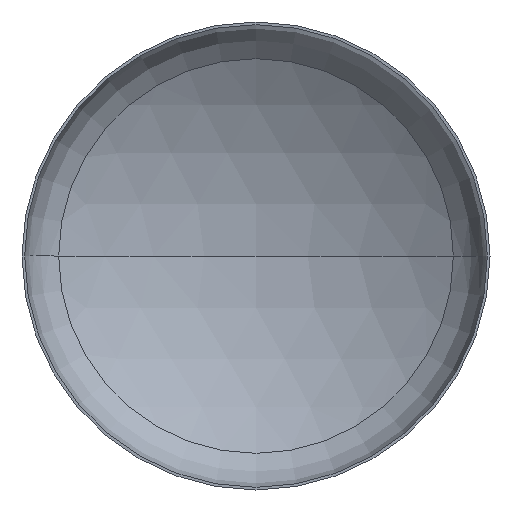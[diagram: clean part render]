
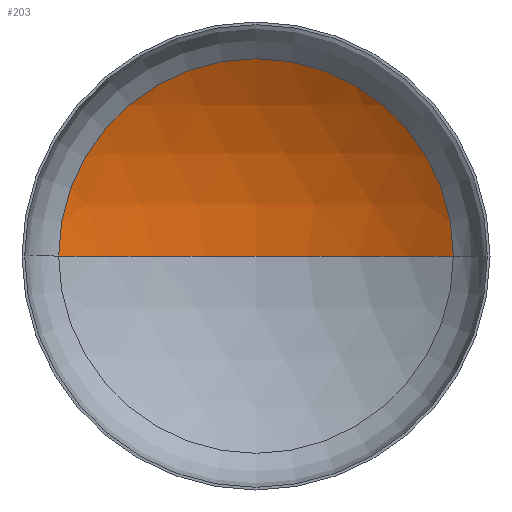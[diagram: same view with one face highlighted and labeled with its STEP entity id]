
A CAD part, front view. The second image highlights one B-rep face of the part: STEP entity #203.
In plain terms, the highlighted spherical face has radius 1120 mm.
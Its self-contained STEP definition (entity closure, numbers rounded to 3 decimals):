
#2 = AXIS2_PLACEMENT_3D ( 'NONE', #364, #218, #264 ) ;
#7 = DIRECTION ( 'NONE',  ( 0., 0., -1. ) ) ;
#9 = AXIS2_PLACEMENT_3D ( 'NONE', #127, #326, #205 ) ;
#14 = VERTEX_POINT ( 'NONE', #272 ) ;
#29 = AXIS2_PLACEMENT_3D ( 'NONE', #257, #7, #255 ) ;
#40 = CARTESIAN_POINT ( 'NONE',  ( 0., 375.912, 0. ) ) ;
#91 = CARTESIAN_POINT ( 'NONE',  ( -590.32, 207.711, 0. ) ) ;
#94 = ORIENTED_EDGE ( 'NONE', *, *, #375, .T. ) ;
#98 = CARTESIAN_POINT ( 'NONE',  ( 0., -744.088, 0. ) ) ;
#103 = SPHERICAL_SURFACE ( 'NONE', #29, 1120. ) ;
#121 = CIRCLE ( 'NONE', #222, 1120. ) ;
#127 = CARTESIAN_POINT ( 'NONE',  ( 0., 207.711, 0. ) ) ;
#161 = ORIENTED_EDGE ( 'NONE', *, *, #331, .T. ) ;
#181 = ORIENTED_EDGE ( 'NONE', *, *, #372, .F. ) ;
#190 = VERTEX_POINT ( 'NONE', #40 ) ;
#201 = VERTEX_POINT ( 'NONE', #91 ) ;
#203 = ADVANCED_FACE ( 'NONE', ( #388 ), #103, .F. ) ;
#205 = DIRECTION ( 'NONE',  ( 1., 0., 0. ) ) ;
#218 = DIRECTION ( 'NONE',  ( 0., 0., 1. ) ) ;
#222 = AXIS2_PLACEMENT_3D ( 'NONE', #98, #239, #405 ) ;
#239 = DIRECTION ( 'NONE',  ( 0., 0., -1. ) ) ;
#255 = DIRECTION ( 'NONE',  ( -1., 0., 0. ) ) ;
#257 = CARTESIAN_POINT ( 'NONE',  ( 0., -744.088, 0. ) ) ;
#264 = DIRECTION ( 'NONE',  ( 1., 0., 0. ) ) ;
#272 = CARTESIAN_POINT ( 'NONE',  ( 590.32, 207.711, 0. ) ) ;
#282 = CIRCLE ( 'NONE', #2, 1120. ) ;
#326 = DIRECTION ( 'NONE',  ( 0., -1., 0. ) ) ;
#331 = EDGE_CURVE ( 'NONE', #14, #201, #367, .T. ) ;
#363 = EDGE_LOOP ( 'NONE', ( #181, #94, #161 ) ) ;
#364 = CARTESIAN_POINT ( 'NONE',  ( 0., -744.088, 0. ) ) ;
#367 = CIRCLE ( 'NONE', #9, 590.32 ) ;
#372 = EDGE_CURVE ( 'NONE', #190, #201, #282, .T. ) ;
#375 = EDGE_CURVE ( 'NONE', #190, #14, #121, .T. ) ;
#388 = FACE_OUTER_BOUND ( 'NONE', #363, .T. ) ;
#405 = DIRECTION ( 'NONE',  ( -1., 0., 0. ) ) ;
